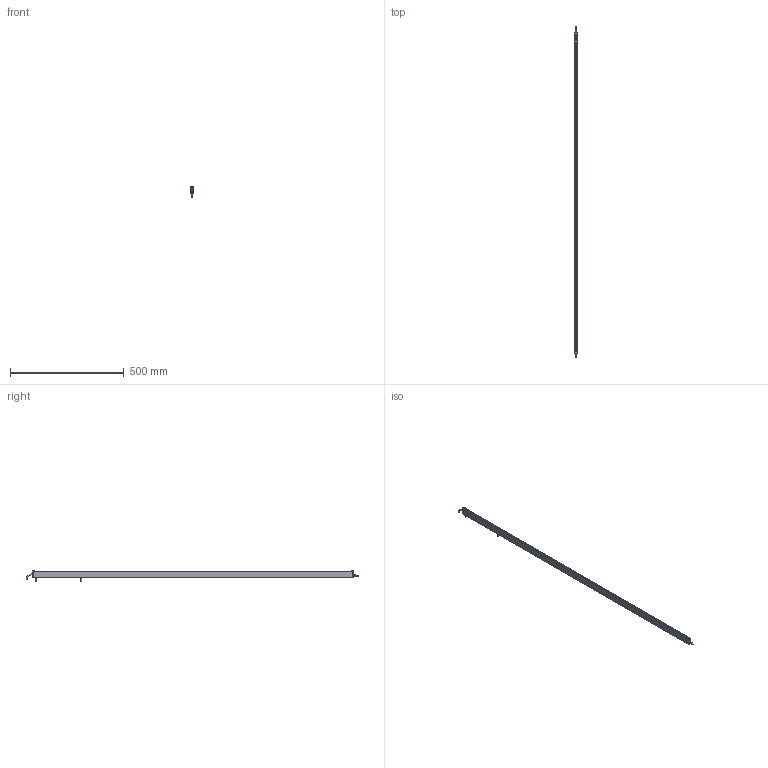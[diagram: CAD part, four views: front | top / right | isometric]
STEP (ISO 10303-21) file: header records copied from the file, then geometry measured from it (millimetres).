
FILE_DESCRIPTION (( 'STEP AP214' ), '1' );
FILE_NAME ('ILG-B-K1-1410mm.STEP', '2017-07-10T12:09:40', ( '' ), ( '' ), 'SwSTEP 2.0', 'SolidWorks 2016', '' );
FILE_SCHEMA (( 'AUTOMOTIVE_DESIGN' ));
Length unit declared in the file: millimetre
Products named in the file (1): ILG-B-K1-1410mm
Bounding box: 9 x 1458.25 x 46.21 mm (x, y, z)
Volume: 159196.6 mm3; surface area: 234288.4 mm2
Topology: 11 solids, 11 shells, 453 faces, 1150 edges, 724 vertices
Faces by surface type: plane 216, cylinder 152, cone 73, torus 12
Entity records: 18769 total; most frequent: CARTESIAN_POINT 2540, DIRECTION 2424, ORIENTED_EDGE 2284, EDGE_CURVE 1142, AXIS2_PLACEMENT_3D 896, VERTEX_POINT 724, VECTOR 632, LINE 632
